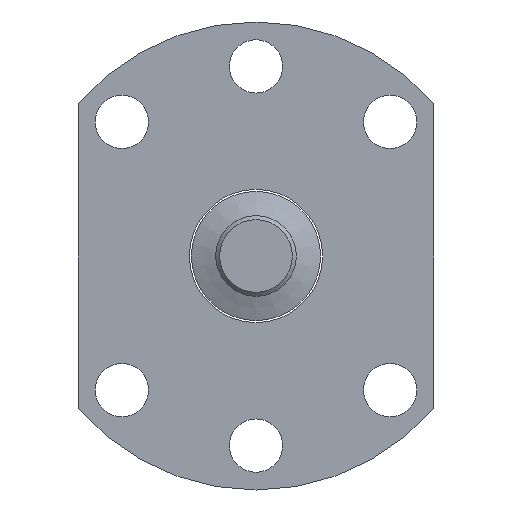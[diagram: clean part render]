
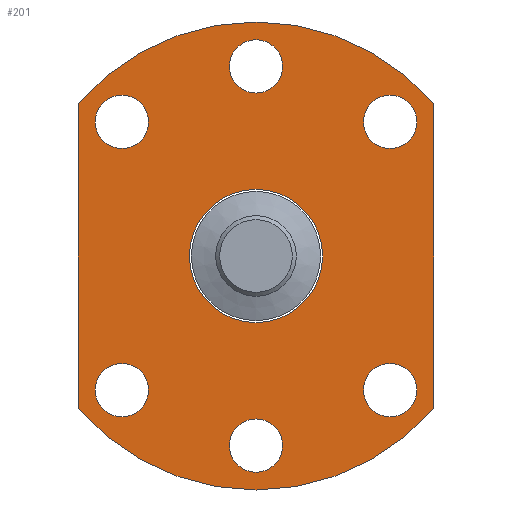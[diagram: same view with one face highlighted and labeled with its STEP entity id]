
A CAD part, left-side view. The second image highlights one B-rep face of the part: STEP entity #201.
In plain terms, the highlighted planar face has unit normal (-1, 0, 0).
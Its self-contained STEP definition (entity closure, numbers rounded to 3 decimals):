
#201=ADVANCED_FACE('',(#526,#528,#530,#532,#534,#536,#538,#540),#542,.F.);
#526=FACE_BOUND('',#527,.T.);
#527=EDGE_LOOP('',(#740,#741,#742,#743));
#528=FACE_BOUND('',#529,.T.);
#529=EDGE_LOOP('',(#744));
#530=FACE_BOUND('',#531,.T.);
#531=EDGE_LOOP('',(#745));
#532=FACE_BOUND('',#533,.T.);
#533=EDGE_LOOP('',(#746));
#534=FACE_BOUND('',#535,.T.);
#535=EDGE_LOOP('',(#747));
#536=FACE_BOUND('',#537,.T.);
#537=EDGE_LOOP('',(#748));
#538=FACE_BOUND('',#539,.T.);
#539=EDGE_LOOP('',(#749));
#540=FACE_BOUND('',#541,.T.);
#541=EDGE_LOOP('',(#750));
#542=PLANE('',#543);
#543=AXIS2_PLACEMENT_3D('',#544,#545,#546);
#544=CARTESIAN_POINT('',(60.,0.,0.));
#545=DIRECTION('',(1.,0.,0.));
#546=DIRECTION('',(0.,1.,0.));
#740=ORIENTED_EDGE('',*,*,#821,.F.);
#741=ORIENTED_EDGE('',*,*,#822,.F.);
#742=ORIENTED_EDGE('',*,*,#823,.F.);
#743=ORIENTED_EDGE('',*,*,#824,.F.);
#744=ORIENTED_EDGE('',*,*,#808,.T.);
#745=ORIENTED_EDGE('',*,*,#825,.T.);
#746=ORIENTED_EDGE('',*,*,#826,.T.);
#747=ORIENTED_EDGE('',*,*,#827,.T.);
#748=ORIENTED_EDGE('',*,*,#828,.T.);
#749=ORIENTED_EDGE('',*,*,#829,.T.);
#750=ORIENTED_EDGE('',*,*,#830,.T.);
#808=EDGE_CURVE('',#868,#868,#869,.T.);
#821=EDGE_CURVE('',#894,#895,#896,.T.);
#822=EDGE_CURVE('',#897,#894,#898,.T.);
#823=EDGE_CURVE('',#899,#897,#900,.T.);
#824=EDGE_CURVE('',#895,#899,#901,.T.);
#825=EDGE_CURVE('',#902,#902,#903,.T.);
#826=EDGE_CURVE('',#904,#904,#905,.T.);
#827=EDGE_CURVE('',#906,#906,#907,.T.);
#828=EDGE_CURVE('',#908,#908,#909,.T.);
#829=EDGE_CURVE('',#910,#910,#911,.T.);
#830=EDGE_CURVE('',#912,#912,#913,.T.);
#868=VERTEX_POINT('',#997);
#869=CIRCLE('',#998,8.25);
#894=VERTEX_POINT('',#1060);
#895=VERTEX_POINT('',#1061);
#896=CIRCLE('',#1062,29.);
#897=VERTEX_POINT('',#1066);
#898=LINE('',#1067,#1068);
#899=VERTEX_POINT('',#1070);
#900=CIRCLE('',#1071,29.);
#901=LINE('',#1075,#1076);
#902=VERTEX_POINT('',#1078);
#903=CIRCLE('',#1079,3.3);
#904=VERTEX_POINT('',#1083);
#905=CIRCLE('',#1084,3.3);
#906=VERTEX_POINT('',#1088);
#907=CIRCLE('',#1089,3.3);
#908=VERTEX_POINT('',#1093);
#909=CIRCLE('',#1094,3.3);
#910=VERTEX_POINT('',#1098);
#911=CIRCLE('',#1099,3.3);
#912=VERTEX_POINT('',#1103);
#913=CIRCLE('',#1104,3.3);
#997=CARTESIAN_POINT('',(60.,8.25,0.));
#998=AXIS2_PLACEMENT_3D('',#999,#1000,#1001);
#999=CARTESIAN_POINT('',(60.,0.,0.));
#1000=DIRECTION('',(1.,0.,0.));
#1001=DIRECTION('',(0.,1.,0.));
#1060=CARTESIAN_POINT('',(60.,-22.,-18.894));
#1061=CARTESIAN_POINT('',(60.,22.,-18.894));
#1062=AXIS2_PLACEMENT_3D('',#1063,#1064,#1065);
#1063=CARTESIAN_POINT('',(60.,0.,0.));
#1064=DIRECTION('',(1.,0.,0.));
#1065=DIRECTION('',(0.,-0.759,-0.652));
#1066=CARTESIAN_POINT('',(60.,-22.,18.894));
#1067=CARTESIAN_POINT('',(60.,-22.,18.894));
#1068=VECTOR('',#1069,1.);
#1069=DIRECTION('',(0.,0.,-1.));
#1070=CARTESIAN_POINT('',(60.,22.,18.894));
#1071=AXIS2_PLACEMENT_3D('',#1072,#1073,#1074);
#1072=CARTESIAN_POINT('',(60.,0.,0.));
#1073=DIRECTION('',(1.,0.,0.));
#1074=DIRECTION('',(0.,0.759,0.652));
#1075=CARTESIAN_POINT('',(60.,22.,-18.894));
#1076=VECTOR('',#1077,1.);
#1077=DIRECTION('',(0.,0.,1.));
#1078=CARTESIAN_POINT('',(60.,-13.317,16.617));
#1079=AXIS2_PLACEMENT_3D('',#1080,#1081,#1082);
#1080=CARTESIAN_POINT('',(60.,-16.617,16.617));
#1081=DIRECTION('',(1.,0.,0.));
#1082=DIRECTION('',(0.,1.,0.));
#1083=CARTESIAN_POINT('',(60.,19.917,16.617));
#1084=AXIS2_PLACEMENT_3D('',#1085,#1086,#1087);
#1085=CARTESIAN_POINT('',(60.,16.617,16.617));
#1086=DIRECTION('',(1.,0.,0.));
#1087=DIRECTION('',(0.,1.,0.));
#1088=CARTESIAN_POINT('',(60.,-13.317,-16.617));
#1089=AXIS2_PLACEMENT_3D('',#1090,#1091,#1092);
#1090=CARTESIAN_POINT('',(60.,-16.617,-16.617));
#1091=DIRECTION('',(1.,0.,0.));
#1092=DIRECTION('',(0.,1.,0.));
#1093=CARTESIAN_POINT('',(60.,19.917,-16.617));
#1094=AXIS2_PLACEMENT_3D('',#1095,#1096,#1097);
#1095=CARTESIAN_POINT('',(60.,16.617,-16.617));
#1096=DIRECTION('',(1.,0.,0.));
#1097=DIRECTION('',(0.,1.,0.));
#1098=CARTESIAN_POINT('',(60.,3.3,23.5));
#1099=AXIS2_PLACEMENT_3D('',#1100,#1101,#1102);
#1100=CARTESIAN_POINT('',(60.,0.,23.5));
#1101=DIRECTION('',(1.,0.,0.));
#1102=DIRECTION('',(0.,1.,0.));
#1103=CARTESIAN_POINT('',(60.,3.3,-23.5));
#1104=AXIS2_PLACEMENT_3D('',#1105,#1106,#1107);
#1105=CARTESIAN_POINT('',(60.,0.,-23.5));
#1106=DIRECTION('',(1.,0.,0.));
#1107=DIRECTION('',(0.,1.,0.));
